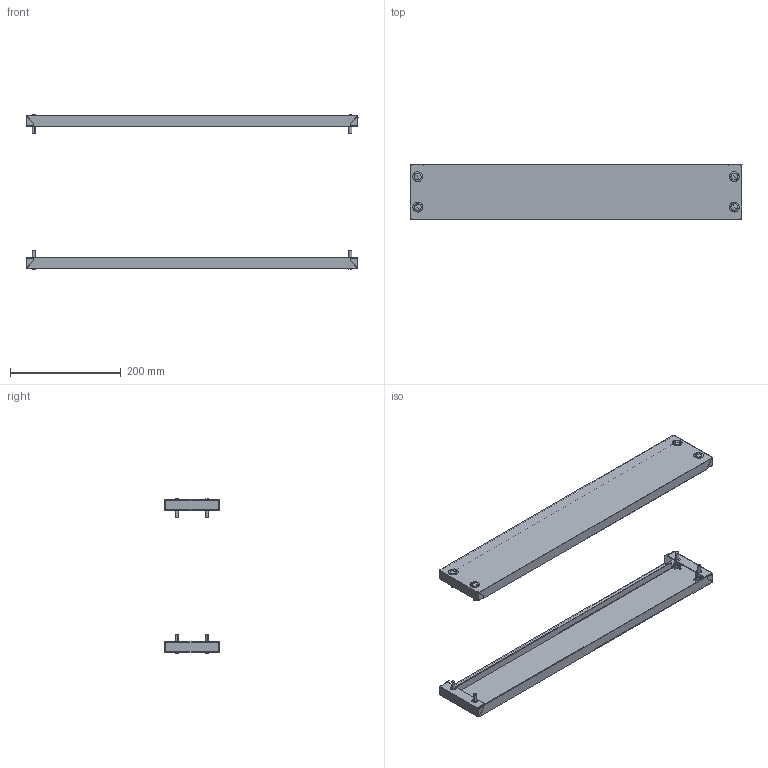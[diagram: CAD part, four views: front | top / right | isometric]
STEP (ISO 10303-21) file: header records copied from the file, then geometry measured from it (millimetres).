
FILE_DESCRIPTION (( 'STEP AP203' ), '1' );
FILE_NAME ('R5FZ6-300.STEP', '2025-06-18T08:37:39', ( '' ), ( '' ), 'SwSTEP 2.0', 'SolidWorks 2022', '' );
FILE_SCHEMA (( 'CONFIG_CONTROL_DESIGN' ));
Length unit declared in the file: millimetre
Products named in the file (5): R5FZ6-300; 6 DIN 6798 A Zinc; M6x16 DIN 912 HX cl.4,8 Zinc_stright; Plug_11.5-13Д18ЧК_-00; RB.1055.00.00.0 simple_-02 (600)
Assembly tree (26 placements, depth 2):
  R5FZ6-300
    RB.1055.00.00.0 simple_-02 (600)  x2
    M6x16 DIN 912 HX cl.4,8 Zinc_stright  x8
    6 DIN 6798 A Zinc  x8
    Plug_11.5-13Д18ЧК_-00  x8
Bounding box: 599 x 100.05 x 278.5 mm (x, y, z)
Volume: 294956.8 mm3; surface area: 400063.7 mm2
Topology: 26 solids, 26 shells, 1196 faces, 3456 edges, 2112 vertices
Faces by surface type: plane 700, bspline 208, cylinder 128, cone 96, torus 48, sphere 16
Entity records: 9921 total; most frequent: CARTESIAN_POINT 2626, ORIENTED_EDGE 1352, DIRECTION 1188, EDGE_CURVE 676, VECTOR 448, LINE 448, VERTEX_POINT 444, AXIS2_PLACEMENT_3D 370
